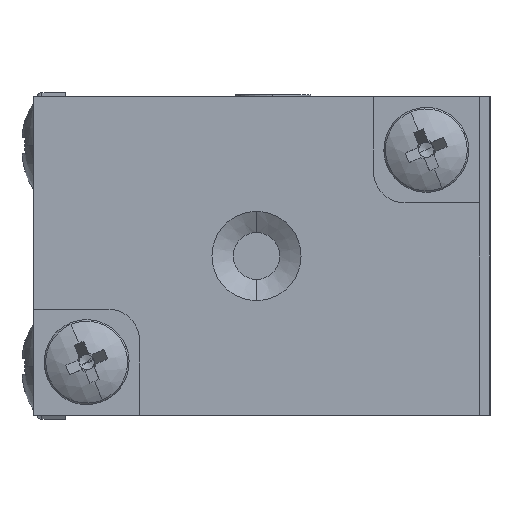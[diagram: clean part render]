
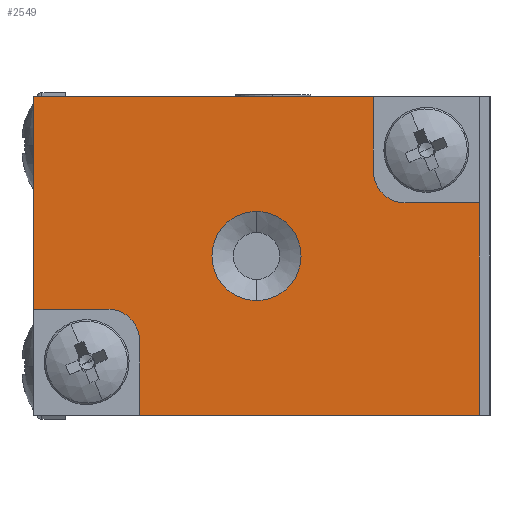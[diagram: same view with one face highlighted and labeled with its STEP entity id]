
A CAD part, left-side view. The second image highlights one B-rep face of the part: STEP entity #2549.
In plain terms, the highlighted planar face has unit normal (-1, 0, 0) as drawn and (1, 0, 0) by its records, which use the part's own axes.
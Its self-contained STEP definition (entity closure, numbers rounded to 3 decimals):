
#77 = DIRECTION ( 'NONE',  ( 0., 0., 1. ) ) ;
#174 = EDGE_CURVE ( 'NONE', #889, #6800, #4529, .T. ) ;
#178 = DIRECTION ( 'NONE',  ( 0., 0., 1. ) ) ;
#216 = VECTOR ( 'NONE', #1882, 1000. ) ;
#372 = CARTESIAN_POINT ( 'NONE',  ( 13., 5.5, 7.5 ) ) ;
#379 = CARTESIAN_POINT ( 'NONE',  ( 13., 0., 2.1 ) ) ;
#381 = CARTESIAN_POINT ( 'NONE',  ( 13., 10.5, 2.5 ) ) ;
#540 = VERTEX_POINT ( 'NONE', #4350 ) ;
#558 = DIRECTION ( 'NONE',  ( 0., 0., -1. ) ) ;
#567 = CARTESIAN_POINT ( 'NONE',  ( 13., -10.5, -7.5 ) ) ;
#642 = DIRECTION ( 'NONE',  ( 1., 0., 0. ) ) ;
#708 = EDGE_CURVE ( 'NONE', #540, #3668, #1248, .T. ) ;
#710 = CIRCLE ( 'NONE', #2280, 1.5 ) ;
#783 = CARTESIAN_POINT ( 'NONE',  ( 13., -7., -4. ) ) ;
#880 = VECTOR ( 'NONE', #558, 1000. ) ;
#889 = VERTEX_POINT ( 'NONE', #379 ) ;
#987 = CARTESIAN_POINT ( 'NONE',  ( 13., -10.5, -2.5 ) ) ;
#1035 = DIRECTION ( 'NONE',  ( 0., 0., 1. ) ) ;
#1115 = CARTESIAN_POINT ( 'NONE',  ( 13., -10.5, 7.5 ) ) ;
#1178 = AXIS2_PLACEMENT_3D ( 'NONE', #6510, #2573, #2623 ) ;
#1248 = LINE ( 'NONE', #2953, #1844 ) ;
#1520 = ORIENTED_EDGE ( 'NONE', *, *, #6411, .F. ) ;
#1524 = CARTESIAN_POINT ( 'NONE',  ( 13., 10.5, 2.5 ) ) ;
#1562 = EDGE_CURVE ( 'NONE', #7706, #3160, #6313, .T. ) ;
#1575 = VECTOR ( 'NONE', #5398, 1000. ) ;
#1612 = LINE ( 'NONE', #567, #216 ) ;
#1629 = VERTEX_POINT ( 'NONE', #1767 ) ;
#1664 = EDGE_CURVE ( 'NONE', #1629, #3700, #6017, .T. ) ;
#1767 = CARTESIAN_POINT ( 'NONE',  ( 13., 7., 2.5 ) ) ;
#1844 = VECTOR ( 'NONE', #6842, 1000. ) ;
#1875 = LINE ( 'NONE', #372, #1575 ) ;
#1882 = DIRECTION ( 'NONE',  ( 0., 1., 0. ) ) ;
#1955 = CARTESIAN_POINT ( 'NONE',  ( 13., 10.5, 7.5 ) ) ;
#2064 = DIRECTION ( 'NONE',  ( 0., 0., 1. ) ) ;
#2074 = EDGE_CURVE ( 'NONE', #6800, #889, #5200, .T. ) ;
#2227 = DIRECTION ( 'NONE',  ( 0., -1., 0. ) ) ;
#2280 = AXIS2_PLACEMENT_3D ( 'NONE', #783, #7780, #178 ) ;
#2549 = ADVANCED_FACE ( 'NONE', ( #6111, #7396 ), #4549, .F. ) ;
#2573 = DIRECTION ( 'NONE',  ( 1., 0., 0. ) ) ;
#2623 = DIRECTION ( 'NONE',  ( 0., 0., -1. ) ) ;
#2704 = AXIS2_PLACEMENT_3D ( 'NONE', #7617, #642, #5089 ) ;
#2805 = EDGE_CURVE ( 'NONE', #540, #3700, #1875, .T. ) ;
#2806 = VECTOR ( 'NONE', #5313, 1000. ) ;
#2874 = EDGE_CURVE ( 'NONE', #3668, #3722, #7159, .T. ) ;
#2953 = CARTESIAN_POINT ( 'NONE',  ( 13., -10.5, 7.5 ) ) ;
#3109 = VECTOR ( 'NONE', #2227, 1000. ) ;
#3160 = VERTEX_POINT ( 'NONE', #1524 ) ;
#3331 = VERTEX_POINT ( 'NONE', #4226 ) ;
#3668 = VERTEX_POINT ( 'NONE', #8223 ) ;
#3689 = LINE ( 'NONE', #5861, #2806 ) ;
#3700 = VERTEX_POINT ( 'NONE', #6986 ) ;
#3722 = VERTEX_POINT ( 'NONE', #5206 ) ;
#3856 = VERTEX_POINT ( 'NONE', #4837 ) ;
#4174 = ORIENTED_EDGE ( 'NONE', *, *, #1664, .T. ) ;
#4226 = CARTESIAN_POINT ( 'NONE',  ( 13., -5.5, -4. ) ) ;
#4350 = CARTESIAN_POINT ( 'NONE',  ( 13., 5.5, 7.5 ) ) ;
#4529 = CIRCLE ( 'NONE', #2704, 2.1 ) ;
#4549 = PLANE ( 'NONE',  #5750 ) ;
#4581 = CARTESIAN_POINT ( 'NONE',  ( 13., 0., 0. ) ) ;
#4837 = CARTESIAN_POINT ( 'NONE',  ( 13., -5.5, -7.5 ) ) ;
#5089 = DIRECTION ( 'NONE',  ( 0., 0., -1. ) ) ;
#5126 = ORIENTED_EDGE ( 'NONE', *, *, #5487, .F. ) ;
#5198 = DIRECTION ( 'NONE',  ( -1., 0., 0. ) ) ;
#5200 = CIRCLE ( 'NONE', #1178, 2.1 ) ;
#5206 = CARTESIAN_POINT ( 'NONE',  ( 13., -10.5, -2.5 ) ) ;
#5313 = DIRECTION ( 'NONE',  ( 0., 0., 1. ) ) ;
#5341 = ORIENTED_EDGE ( 'NONE', *, *, #2074, .F. ) ;
#5398 = DIRECTION ( 'NONE',  ( 0., 0., -1. ) ) ;
#5487 = EDGE_CURVE ( 'NONE', #3856, #3331, #3689, .T. ) ;
#5552 = EDGE_CURVE ( 'NONE', #6949, #3722, #7485, .T. ) ;
#5635 = ORIENTED_EDGE ( 'NONE', *, *, #708, .T. ) ;
#5686 = LINE ( 'NONE', #381, #7775 ) ;
#5750 = AXIS2_PLACEMENT_3D ( 'NONE', #4581, #5198, #2064 ) ;
#5861 = CARTESIAN_POINT ( 'NONE',  ( 13., -5.5, -7.5 ) ) ;
#5885 = CARTESIAN_POINT ( 'NONE',  ( 13., -7., -2.5 ) ) ;
#6017 = CIRCLE ( 'NONE', #7941, 1.5 ) ;
#6060 = CARTESIAN_POINT ( 'NONE',  ( 13., 10.5, -7.5 ) ) ;
#6111 = FACE_BOUND ( 'NONE', #6847, .T. ) ;
#6313 = LINE ( 'NONE', #1955, #7496 ) ;
#6411 = EDGE_CURVE ( 'NONE', #1629, #3160, #5686, .T. ) ;
#6510 = CARTESIAN_POINT ( 'NONE',  ( 13., 0., 0. ) ) ;
#6598 = ORIENTED_EDGE ( 'NONE', *, *, #6675, .T. ) ;
#6675 = EDGE_CURVE ( 'NONE', #3856, #7706, #1612, .T. ) ;
#6707 = DIRECTION ( 'NONE',  ( 0., 1., 0. ) ) ;
#6800 = VERTEX_POINT ( 'NONE', #7009 ) ;
#6842 = DIRECTION ( 'NONE',  ( 0., -1., 0. ) ) ;
#6847 = EDGE_LOOP ( 'NONE', ( #5341, #7528 ) ) ;
#6949 = VERTEX_POINT ( 'NONE', #5885 ) ;
#6986 = CARTESIAN_POINT ( 'NONE',  ( 13., 5.5, 4. ) ) ;
#7009 = CARTESIAN_POINT ( 'NONE',  ( 13., 0., -2.1 ) ) ;
#7152 = ORIENTED_EDGE ( 'NONE', *, *, #2805, .F. ) ;
#7153 = EDGE_CURVE ( 'NONE', #6949, #3331, #710, .T. ) ;
#7159 = LINE ( 'NONE', #1115, #880 ) ;
#7167 = ORIENTED_EDGE ( 'NONE', *, *, #5552, .F. ) ;
#7363 = CARTESIAN_POINT ( 'NONE',  ( 13., 7., 4. ) ) ;
#7388 = DIRECTION ( 'NONE',  ( -1., 0., 0. ) ) ;
#7396 = FACE_OUTER_BOUND ( 'NONE', #7869, .T. ) ;
#7485 = LINE ( 'NONE', #987, #3109 ) ;
#7496 = VECTOR ( 'NONE', #77, 1000. ) ;
#7528 = ORIENTED_EDGE ( 'NONE', *, *, #174, .F. ) ;
#7608 = ORIENTED_EDGE ( 'NONE', *, *, #1562, .T. ) ;
#7617 = CARTESIAN_POINT ( 'NONE',  ( 13., 0., 0. ) ) ;
#7706 = VERTEX_POINT ( 'NONE', #6060 ) ;
#7775 = VECTOR ( 'NONE', #6707, 1000. ) ;
#7780 = DIRECTION ( 'NONE',  ( -1., 0., 0. ) ) ;
#7830 = ORIENTED_EDGE ( 'NONE', *, *, #7153, .T. ) ;
#7869 = EDGE_LOOP ( 'NONE', ( #8242, #7167, #7830, #5126, #6598, #7608, #1520, #4174, #7152, #5635 ) ) ;
#7941 = AXIS2_PLACEMENT_3D ( 'NONE', #7363, #7388, #1035 ) ;
#8223 = CARTESIAN_POINT ( 'NONE',  ( 13., -10.5, 7.5 ) ) ;
#8242 = ORIENTED_EDGE ( 'NONE', *, *, #2874, .T. ) ;
